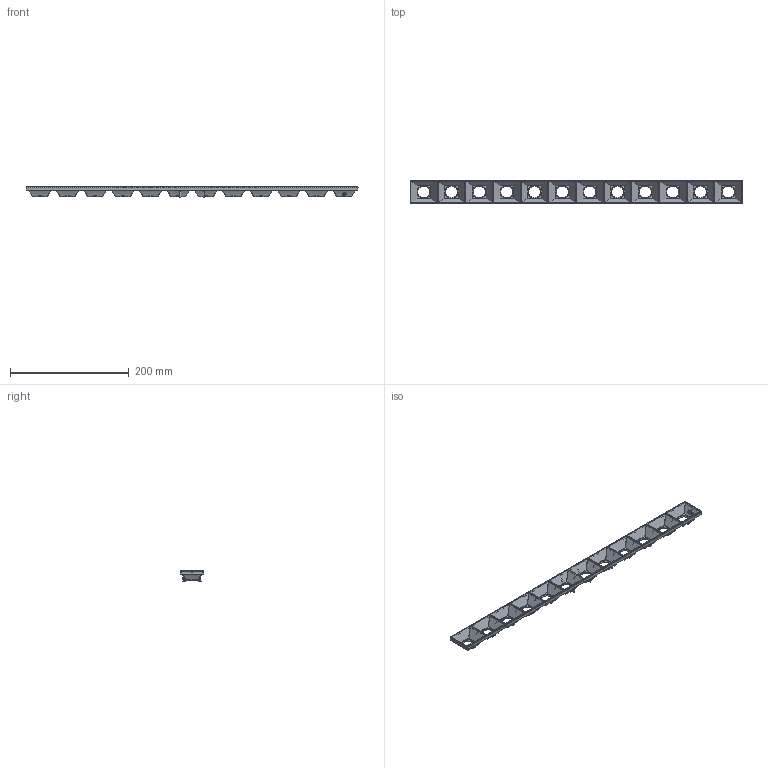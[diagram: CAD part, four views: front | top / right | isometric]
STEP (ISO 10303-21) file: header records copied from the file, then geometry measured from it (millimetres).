
FILE_DESCRIPTION(/* description */ ('Unknown'),/* implementation_level */ '2;1');
FILE_NAME(/* name */ '023-B03-03',/* time_stamp */ '2025-05-08T16:08:50+02:00',/* author */ ('Unknown'),/* organization */ ('Unknown'),/* preprocessor_version */ 'ST-DEVELOPER v16.7',/* originating_system */ 'Solid Edge',/* authorisation */ 'Unknown');
FILE_SCHEMA (('AUTOMOTIVE_DESIGN {1 0 10303 214 3 1 1}'));
Length unit declared in the file: millimetre
Products named in the file (1): 023-B03-03
Bounding box: 560 x 40 x 19.9 mm (x, y, z)
Volume: 49711.6 mm3; surface area: 83402.5 mm2
Topology: 1 solids, 1 shells, 1195 faces, 3050 edges, 1854 vertices
Faces by surface type: plane 425, bspline 388, cylinder 278, sphere 48, cone 32, torus 24
Entity records: 42200 total; most frequent: CARTESIAN_POINT 16924, ORIENTED_EDGE 5992, DIRECTION 4152, EDGE_CURVE 2996, VERTEX_POINT 1852, AXIS2_PLACEMENT_3D 1532, EDGE_LOOP 1268, FACE_BOUND 1268
